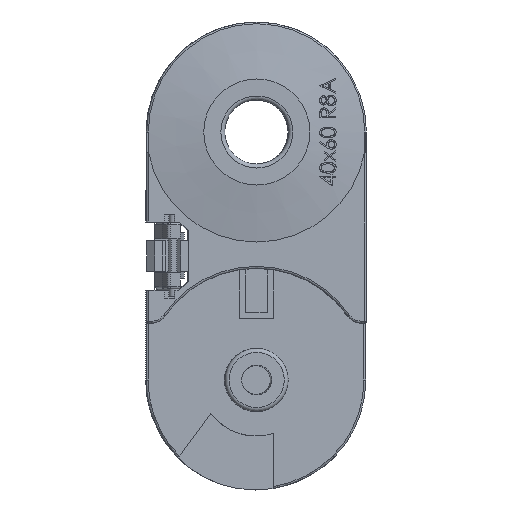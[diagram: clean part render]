
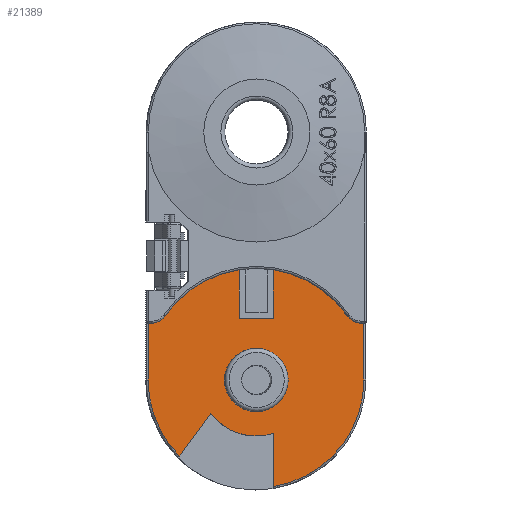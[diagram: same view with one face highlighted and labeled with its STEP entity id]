
A CAD part, left-side view. The second image highlights one B-rep face of the part: STEP entity #21389.
In plain terms, the highlighted planar face has unit normal (-0.999, -0.035, 0).
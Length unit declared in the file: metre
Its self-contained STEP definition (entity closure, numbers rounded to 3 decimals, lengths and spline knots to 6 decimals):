
#7038=CARTESIAN_POINT('',(-0.037374,-0.001122,0.086));
#7039=DIRECTION('',(-0.999,-0.035,0.));
#7040=DIRECTION('',(0.,0.,1.));
#7041=AXIS2_PLACEMENT_3D('',#7038,#7039,#7040);
#7042=CIRCLE('',#7041,0.0079);
#7043=CARTESIAN_POINT('',(-0.037374,-0.001122,0.0781));
#7044=VERTEX_POINT('',#7043);
#7045=EDGE_CURVE('',#7044,#7044,#7042,.T.);
#7063=CARTESIAN_POINT('',(-0.037494,0.002314,0.088498));
#7064=DIRECTION('',(-0.021,0.587,-0.809));
#7065=VECTOR('',#7064,1.);
#7066=LINE('',#7063,#7065);
#7067=CARTESIAN_POINT('',(-0.037767,0.01015,0.077706));
#7068=VERTEX_POINT('',#7067);
#7069=CARTESIAN_POINT('',(-0.038039,0.017928,0.066995));
#7070=VERTEX_POINT('',#7069);
#7071=EDGE_CURVE('',#7068,#7070,#7066,.T.);
#7124=CARTESIAN_POINT('',(-0.037222,-0.005469,0.072693));
#7125=VERTEX_POINT('',#7124);
#7128=CARTESIAN_POINT('',(-0.037374,-0.001122,0.086));
#7129=DIRECTION('',(-0.999,-0.035,0.));
#7130=DIRECTION('',(0.,0.,1.));
#7131=AXIS2_PLACEMENT_3D('',#7128,#7129,#7130);
#7132=CIRCLE('',#7131,0.014);
#7133=EDGE_CURVE('',#7068,#7125,#7132,.T.);
#7204=CARTESIAN_POINT('',(-0.038041,0.017982,0.066932));
#7205=VERTEX_POINT('',#7204);
#7216=CARTESIAN_POINT('',(-0.038053,0.018332,0.067289));
#7217=DIRECTION('',(-0.999,-0.035,0.));
#7218=DIRECTION('',(0.,0.,1.));
#7219=AXIS2_PLACEMENT_3D('',#7216,#7217,#7218);
#7220=CIRCLE('',#7219,0.0005);
#7221=EDGE_CURVE('',#7205,#7070,#7220,.T.);
#7321=CARTESIAN_POINT('',(-0.037374,-0.001122,0.086));
#7322=DIRECTION('',(-0.999,-0.035,0.));
#7323=DIRECTION('',(0.,0.,1.));
#7324=AXIS2_PLACEMENT_3D('',#7321,#7322,#7323);
#7325=PLANE('',#7324);
#7336=CARTESIAN_POINT('',(-0.037374,-0.001122,0.086));
#7337=DIRECTION('',(-0.999,-0.035,0.));
#7338=DIRECTION('',(0.,0.,1.));
#7339=AXIS2_PLACEMENT_3D('',#7336,#7337,#7338);
#7340=CIRCLE('',#7339,0.0279);
#7391=CARTESIAN_POINT('',(-0.037522,0.003126,0.1014));
#7392=DIRECTION('',(0.035,-0.999,0.));
#7393=VECTOR('',#7392,1.);
#7394=LINE('',#7391,#7393);
#7395=CARTESIAN_POINT('',(-0.037522,0.003126,0.1014));
#7396=VERTEX_POINT('',#7395);
#7397=CARTESIAN_POINT('',(-0.037225,-0.005369,0.1014));
#7398=VERTEX_POINT('',#7397);
#7399=EDGE_CURVE('',#7396,#7398,#7394,.T.);
#7439=CARTESIAN_POINT('',(-0.037225,-0.005369,0.1264));
#7440=DIRECTION('',(0.,0.,1.));
#7441=VECTOR('',#7440,1.);
#7442=LINE('',#7439,#7441);
#7443=CARTESIAN_POINT('',(-0.037225,-0.005369,0.113574));
#7444=VERTEX_POINT('',#7443);
#7445=EDGE_CURVE('',#7398,#7444,#7442,.T.);
#7521=CARTESIAN_POINT('',(-0.037522,0.003126,0.113574));
#7522=VERTEX_POINT('',#7521);
#7525=CARTESIAN_POINT('',(-0.037522,0.003126,0.086));
#7526=DIRECTION('',(0.,0.,1.));
#7527=VECTOR('',#7526,1.);
#7528=LINE('',#7525,#7527);
#7529=EDGE_CURVE('',#7396,#7522,#7528,.T.);
#7548=CARTESIAN_POINT('',(-0.036527,-0.025357,0.100207));
#7549=DIRECTION('',(-0.035,0.999,0.));
#7550=VECTOR('',#7549,1.);
#7551=LINE('',#7548,#7550);
#7552=CARTESIAN_POINT('',(-0.036431,-0.028105,0.100207));
#7553=VERTEX_POINT('',#7552);
#7554=CARTESIAN_POINT('',(-0.03646,-0.027299,0.100207));
#7555=VERTEX_POINT('',#7554);
#7556=EDGE_CURVE('',#7553,#7555,#7551,.T.);
#7610=CARTESIAN_POINT('',(-0.036574,-0.024017,0.101924));
#7611=VERTEX_POINT('',#7610);
#7614=CARTESIAN_POINT('',(-0.03646,-0.027299,0.104207));
#7615=DIRECTION('',(-0.999,-0.035,0.));
#7616=DIRECTION('',(0.,0.,1.));
#7617=AXIS2_PLACEMENT_3D('',#7614,#7615,#7616);
#7618=CIRCLE('',#7617,0.004);
#7619=EDGE_CURVE('',#7611,#7555,#7618,.T.);
#7651=CARTESIAN_POINT('',(-0.038173,0.021773,0.101924));
#7652=VERTEX_POINT('',#7651);
#7655=EDGE_CURVE('',#7522,#7652,#7340,.T.);
#7664=EDGE_CURVE('',#7611,#7444,#7340,.T.);
#7696=CARTESIAN_POINT('',(-0.038288,0.025056,0.100207));
#7697=VERTEX_POINT('',#7696);
#7700=CARTESIAN_POINT('',(-0.038288,0.025056,0.104207));
#7701=DIRECTION('',(-0.999,-0.035,0.));
#7702=DIRECTION('',(0.,0.,1.));
#7703=AXIS2_PLACEMENT_3D('',#7700,#7701,#7702);
#7704=CIRCLE('',#7703,0.004);
#7705=EDGE_CURVE('',#7697,#7652,#7704,.T.);
#7735=CARTESIAN_POINT('',(-0.038316,0.025862,0.100207));
#7736=VERTEX_POINT('',#7735);
#7739=CARTESIAN_POINT('',(-0.036527,-0.025357,0.100207));
#7740=DIRECTION('',(-0.035,0.999,0.));
#7741=VECTOR('',#7740,1.);
#7742=LINE('',#7739,#7741);
#7743=EDGE_CURVE('',#7697,#7736,#7742,.T.);
#21309=CARTESIAN_POINT('',(-0.036431,-0.028105,0.086));
#21310=VERTEX_POINT('',#21309);
#21315=CARTESIAN_POINT('',(-0.036431,-0.028105,0.100207));
#21316=DIRECTION('',(0.,0.,1.));
#21317=VECTOR('',#21316,1.);
#21318=LINE('',#21315,#21317);
#21319=EDGE_CURVE('',#21310,#7553,#21318,.T.);
#21332=CARTESIAN_POINT('',(-0.037222,-0.005469,0.117));
#21333=DIRECTION('',(0.,0.,1.));
#21334=VECTOR('',#21333,1.);
#21335=LINE('',#21332,#21334);
#21336=CARTESIAN_POINT('',(-0.037222,-0.005469,0.059353));
#21337=VERTEX_POINT('',#21336);
#21338=EDGE_CURVE('',#21337,#7125,#21335,.T.);
#21339=ORIENTED_EDGE('',*,*,#21338,.F.);
#21340=CARTESIAN_POINT('',(-0.037374,-0.001122,0.086));
#21341=DIRECTION('',(-0.999,-0.035,0.));
#21342=DIRECTION('',(0.,0.,1.));
#21343=AXIS2_PLACEMENT_3D('',#21340,#21341,#21342);
#21344=CIRCLE('',#21343,0.027);
#21345=CARTESIAN_POINT('',(-0.036707,-0.020226,0.066932));
#21346=VERTEX_POINT('',#21345);
#21347=EDGE_CURVE('',#21337,#21346,#21344,.T.);
#21348=ORIENTED_EDGE('',*,*,#21347,.T.);
#21349=CARTESIAN_POINT('',(-0.037374,-0.001122,0.086));
#21350=DIRECTION('',(-0.999,-0.035,0.));
#21351=DIRECTION('',(0.,0.,1.));
#21352=AXIS2_PLACEMENT_3D('',#21349,#21350,#21351);
#21353=CIRCLE('',#21352,0.027);
#21354=EDGE_CURVE('',#21346,#21310,#21353,.T.);
#21355=ORIENTED_EDGE('',*,*,#21354,.T.);
#21356=ORIENTED_EDGE('',*,*,#21319,.T.);
#21357=ORIENTED_EDGE('',*,*,#7556,.T.);
#21358=ORIENTED_EDGE('',*,*,#7619,.F.);
#21359=ORIENTED_EDGE('',*,*,#7664,.T.);
#21360=ORIENTED_EDGE('',*,*,#7445,.F.);
#21361=ORIENTED_EDGE('',*,*,#7399,.F.);
#21362=ORIENTED_EDGE('',*,*,#7529,.T.);
#21363=ORIENTED_EDGE('',*,*,#7655,.T.);
#21364=ORIENTED_EDGE('',*,*,#7705,.F.);
#21365=ORIENTED_EDGE('',*,*,#7743,.T.);
#21366=CARTESIAN_POINT('',(-0.038316,0.025862,0.086));
#21367=DIRECTION('',(0.,0.,1.));
#21368=VECTOR('',#21367,1.);
#21369=LINE('',#21366,#21368);
#21370=CARTESIAN_POINT('',(-0.038316,0.025862,0.086));
#21371=VERTEX_POINT('',#21370);
#21372=EDGE_CURVE('',#21371,#7736,#21369,.T.);
#21373=ORIENTED_EDGE('',*,*,#21372,.F.);
#21374=CARTESIAN_POINT('',(-0.037374,-0.001122,0.086));
#21375=DIRECTION('',(-0.999,-0.035,0.));
#21376=DIRECTION('',(0.,0.,1.));
#21377=AXIS2_PLACEMENT_3D('',#21374,#21375,#21376);
#21378=CIRCLE('',#21377,0.027);
#21379=EDGE_CURVE('',#21371,#7205,#21378,.T.);
#21380=ORIENTED_EDGE('',*,*,#21379,.T.);
#21381=ORIENTED_EDGE('',*,*,#7221,.T.);
#21382=ORIENTED_EDGE('',*,*,#7071,.F.);
#21383=ORIENTED_EDGE('',*,*,#7133,.T.);
#21384=EDGE_LOOP('',(#21339,#21348,#21355,#21356,#21357,#21358,#21359,#21360,#21361,#21362,#21363,#21364,#21365,#21373,#21380,#21381,#21382,#21383));
#21385=FACE_BOUND('',#21384,.T.);
#21386=ORIENTED_EDGE('',*,*,#7045,.F.);
#21387=EDGE_LOOP('',(#21386));
#21388=FACE_BOUND('',#21387,.T.);
#21389=ADVANCED_FACE('',(#21385,#21388),#7325,.T.);
